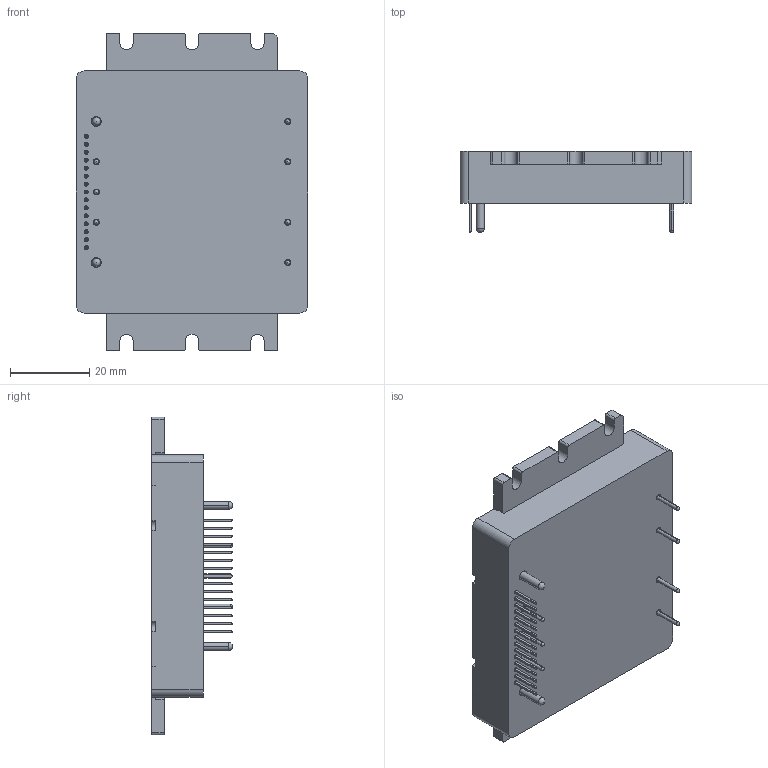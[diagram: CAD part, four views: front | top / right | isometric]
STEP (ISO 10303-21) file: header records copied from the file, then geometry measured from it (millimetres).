
FILE_DESCRIPTION (( 'STEP AP203' ), '1' );
FILE_NAME ('FLANGED_PMBUS.STEP', '2024-10-23T09:25:13', ( '' ), ( '' ), 'SwSTEP 2.0', 'SolidWorks 2021', '' );
FILE_SCHEMA (( 'CONFIG_CONTROL_DESIGN' ));
Length unit declared in the file: millimetre
Products named in the file (1): FLANGED_PMBUS
Bounding box: 58.4 x 20.38 x 80 mm (x, y, z)
Volume: 41232.8 mm3; surface area: 21281.5 mm2
Topology: 1 solids, 1 shells, 812 faces, 2102 edges, 1336 vertices
Faces by surface type: plane 513, cylinder 272, cone 18, sphere 9
Entity records: 25306 total; most frequent: CARTESIAN_POINT 5482, ORIENTED_EDGE 4150, DIRECTION 4025, EDGE_CURVE 2075, AXIS2_PLACEMENT_3D 1401, VERTEX_POINT 1318, VECTOR 1223, LINE 1223
